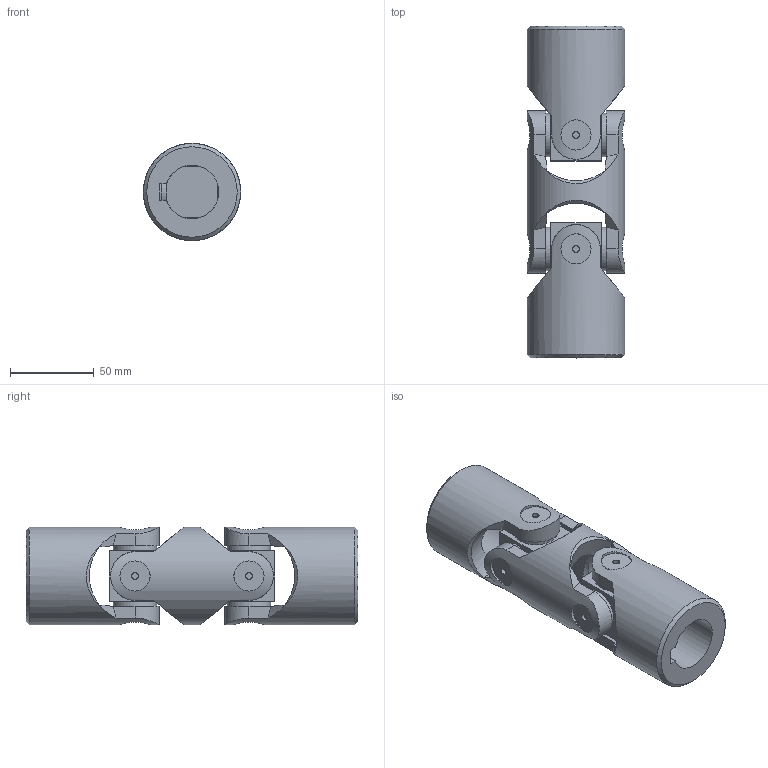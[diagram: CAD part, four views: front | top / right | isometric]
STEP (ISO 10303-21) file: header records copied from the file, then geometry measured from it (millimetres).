
FILE_DESCRIPTION(/* description */ (''),/* implementation_level */ '2;1');
FILE_NAME(/* name */ '\\SRV2016\Societa\Stefano\Disegni 3D\00Catalogo 3D\02Doppi GD-GBD\SG0D321C.stp',/* time_stamp */ '2021-11-23T15:53:33+01:00',/* author */ ('acquisti'),/* organization */ (''),/* preprocessor_version */ 'ST-DEVELOPER v15.6',/* originating_system */ 'Autodesk Inventor 2015',/* authorisation */ '');
FILE_SCHEMA (('AUTOMOTIVE_DESIGN { 1 0 10303 214 3 1 1 }'));
Length unit declared in the file: millimetre
Products named in the file (5): 6G MOD; 6G SFE; 6G1 MOC; 6G1 MOS; Ø58_6GD1-00_SG0D3200
Assembly tree (5 placements, depth 2):
  Ø58_6GD1-00_SG0D3200
    6G MOD
    6G SFE  x2
    6G1 MOC
    6G1 MOS
Bounding box: 58 x 198 x 58 mm (x, y, z)
Volume: 328203.7 mm3; surface area: 73592.2 mm2
Topology: 5 solids, 5 shells, 136 faces, 329 edges, 223 vertices
Faces by surface type: plane 73, cylinder 39, cone 20, torus 4
Full cylindrical faces by diameter (mm): 4 x8, 18 x8, 26 x8, 32 x3, 58 x3
Entity records: 4392 total; most frequent: CARTESIAN_POINT 1655, ORIENTED_EDGE 534, DIRECTION 513, EDGE_CURVE 267, AXIS2_PLACEMENT_3D 223, VERTEX_POINT 203, EDGE_LOOP 178, FACE_OUTER_BOUND 122
